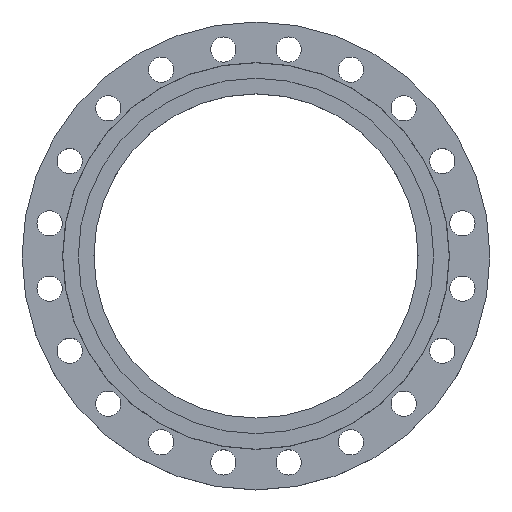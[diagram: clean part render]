
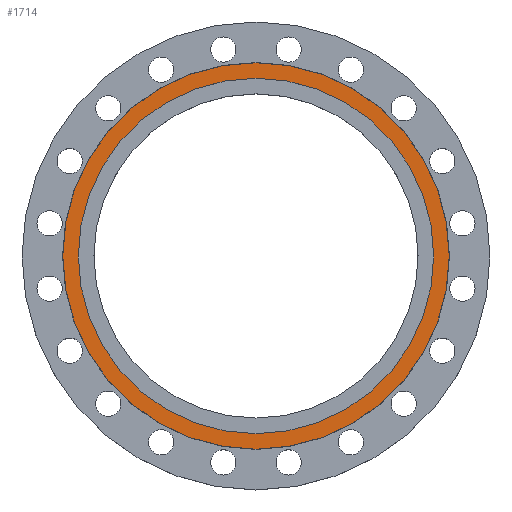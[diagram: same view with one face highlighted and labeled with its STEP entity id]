
A CAD part, top view. The second image highlights one B-rep face of the part: STEP entity #1714.
In plain terms, the highlighted planar face has unit normal (0, 0, 1).
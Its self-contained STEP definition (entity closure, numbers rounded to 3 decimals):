
#53 = CIRCLE ( 'NONE', #55, 338. ) ;
#55 = AXIS2_PLACEMENT_3D ( 'NONE', #894, #890, #882 ) ;
#94 = EDGE_CURVE ( 'NONE', #611, #1745, #96, .T. ) ;
#96 = CIRCLE ( 'NONE', #145, 367.5 ) ;
#145 = AXIS2_PLACEMENT_3D ( 'NONE', #854, #853, #851 ) ;
#206 = CARTESIAN_POINT ( 'NONE',  ( 367.5, 0., 0. ) ) ;
#319 = CARTESIAN_POINT ( 'NONE',  ( -338., 0., 0. ) ) ;
#484 = CARTESIAN_POINT ( 'NONE',  ( 338., 0., 0. ) ) ;
#571 = EDGE_CURVE ( 'NONE', #1745, #611, #1426, .T. ) ;
#611 = VERTEX_POINT ( 'NONE', #678 ) ;
#615 = CARTESIAN_POINT ( 'NONE',  ( 0., 0., 0. ) ) ;
#619 = DIRECTION ( 'NONE',  ( -1., 0., 0. ) ) ;
#620 = DIRECTION ( 'NONE',  ( 0., 0., -1. ) ) ;
#674 = EDGE_CURVE ( 'NONE', #1252, #984, #1478, .T. ) ;
#678 = CARTESIAN_POINT ( 'NONE',  ( -367.5, 0., 0. ) ) ;
#680 = DIRECTION ( 'NONE',  ( 1., 0., 0. ) ) ;
#702 = DIRECTION ( 'NONE',  ( 0., 0., 1. ) ) ;
#703 = DIRECTION ( 'NONE',  ( -1., 0., 0. ) ) ;
#704 = DIRECTION ( 'NONE',  ( 0., 0., -1. ) ) ;
#705 = CARTESIAN_POINT ( 'NONE',  ( 0., 0., 0. ) ) ;
#715 = CARTESIAN_POINT ( 'NONE',  ( 0., 0., 0. ) ) ;
#719 = PLANE ( 'NONE',  #1968 ) ;
#824 = FACE_BOUND ( 'NONE', #947, .T. ) ;
#839 = FACE_OUTER_BOUND ( 'NONE', #1348, .T. ) ;
#851 = DIRECTION ( 'NONE',  ( -1., 0., 0. ) ) ;
#853 = DIRECTION ( 'NONE',  ( 0., 0., -1. ) ) ;
#854 = CARTESIAN_POINT ( 'NONE',  ( 0., 0., 0. ) ) ;
#882 = DIRECTION ( 'NONE',  ( -1., 0., 0. ) ) ;
#890 = DIRECTION ( 'NONE',  ( 0., 0., -1. ) ) ;
#894 = CARTESIAN_POINT ( 'NONE',  ( 0., 0., 0. ) ) ;
#947 = EDGE_LOOP ( 'NONE', ( #1416, #1657 ) ) ;
#984 = VERTEX_POINT ( 'NONE', #484 ) ;
#1252 = VERTEX_POINT ( 'NONE', #319 ) ;
#1348 = EDGE_LOOP ( 'NONE', ( #1370, #1417 ) ) ;
#1370 = ORIENTED_EDGE ( 'NONE', *, *, #94, .F. ) ;
#1416 = ORIENTED_EDGE ( 'NONE', *, *, #674, .T. ) ;
#1417 = ORIENTED_EDGE ( 'NONE', *, *, #571, .F. ) ;
#1426 = CIRCLE ( 'NONE', #1428, 367.5 ) ;
#1428 = AXIS2_PLACEMENT_3D ( 'NONE', #705, #704, #703 ) ;
#1478 = CIRCLE ( 'NONE', #1482, 338. ) ;
#1482 = AXIS2_PLACEMENT_3D ( 'NONE', #615, #620, #619 ) ;
#1657 = ORIENTED_EDGE ( 'NONE', *, *, #1930, .T. ) ;
#1714 = ADVANCED_FACE ( 'NONE', ( #839, #824 ), #719, .T. ) ;
#1745 = VERTEX_POINT ( 'NONE', #206 ) ;
#1930 = EDGE_CURVE ( 'NONE', #984, #1252, #53, .T. ) ;
#1968 = AXIS2_PLACEMENT_3D ( 'NONE', #715, #702, #680 ) ;
